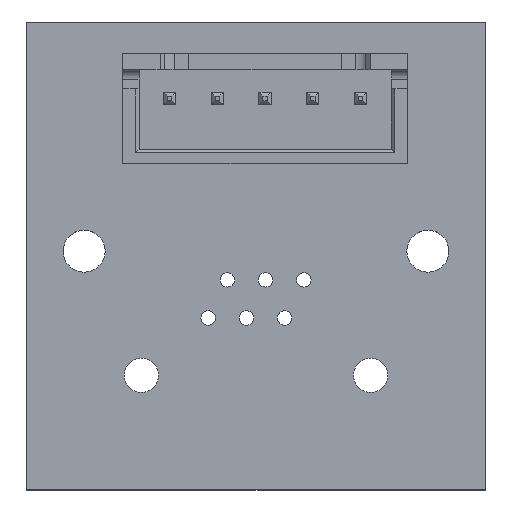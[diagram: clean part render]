
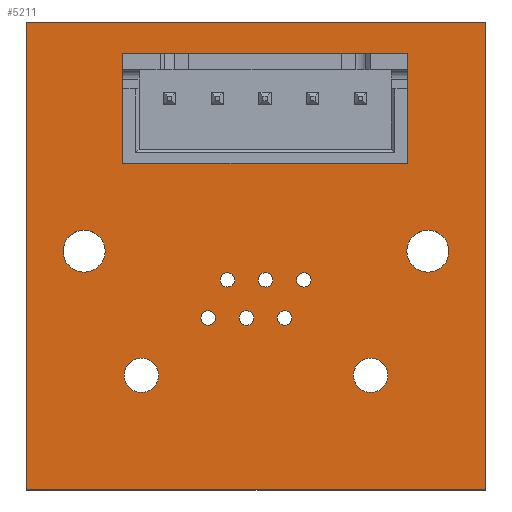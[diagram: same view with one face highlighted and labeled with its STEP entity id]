
A CAD part, top view. The second image highlights one B-rep face of the part: STEP entity #5211.
In plain terms, the highlighted planar face has unit normal (0, 0, 1).
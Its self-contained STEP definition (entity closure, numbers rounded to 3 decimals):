
#4934 = VERTEX_POINT('',#4935);
#4935 = CARTESIAN_POINT('',(24.,0.,1.51));
#4941 = EDGE_CURVE('',#4934,#4942,#4944,.T.);
#4942 = VERTEX_POINT('',#4943);
#4943 = CARTESIAN_POINT('',(0.,0.,1.51));
#4944 = LINE('',#4945,#4946);
#4945 = CARTESIAN_POINT('',(24.,0.,1.51));
#4946 = VECTOR('',#4947,1.);
#4947 = DIRECTION('',(-1.,0.,0.));
#4974 = VERTEX_POINT('',#4975);
#4975 = CARTESIAN_POINT('',(24.,24.5,1.51));
#4981 = EDGE_CURVE('',#4974,#4934,#4982,.T.);
#4982 = LINE('',#4983,#4984);
#4983 = CARTESIAN_POINT('',(24.,24.5,1.51));
#4984 = VECTOR('',#4985,1.);
#4985 = DIRECTION('',(0.,-1.,0.));
#5003 = EDGE_CURVE('',#4942,#5004,#5006,.T.);
#5004 = VERTEX_POINT('',#5005);
#5005 = CARTESIAN_POINT('',(0.,24.5,1.51));
#5006 = LINE('',#5007,#5008);
#5007 = CARTESIAN_POINT('',(0.,0.,1.51));
#5008 = VECTOR('',#5009,1.);
#5009 = DIRECTION('',(0.,1.,0.));
#5211 = ADVANCED_FACE('',(#5212,#5223,#5234,#5245,#5256,#5267,#5278,
    #5289,#5300,#5311,#5322,#5333,#5344,#5355,#5366,#5377),#5388,.T.);
#5212 = FACE_BOUND('',#5213,.T.);
#5213 = EDGE_LOOP('',(#5214,#5215,#5216,#5222));
#5214 = ORIENTED_EDGE('',*,*,#4941,.F.);
#5215 = ORIENTED_EDGE('',*,*,#4981,.F.);
#5216 = ORIENTED_EDGE('',*,*,#5217,.F.);
#5217 = EDGE_CURVE('',#5004,#4974,#5218,.T.);
#5218 = LINE('',#5219,#5220);
#5219 = CARTESIAN_POINT('',(0.,24.5,1.51));
#5220 = VECTOR('',#5221,1.);
#5221 = DIRECTION('',(1.,0.,0.));
#5222 = ORIENTED_EDGE('',*,*,#5003,.F.);
#5223 = FACE_BOUND('',#5224,.T.);
#5224 = EDGE_LOOP('',(#5225));
#5225 = ORIENTED_EDGE('',*,*,#5226,.T.);
#5226 = EDGE_CURVE('',#5227,#5227,#5229,.T.);
#5227 = VERTEX_POINT('',#5228);
#5228 = CARTESIAN_POINT('',(6.,5.1,1.51));
#5229 = CIRCLE('',#5230,0.9);
#5230 = AXIS2_PLACEMENT_3D('',#5231,#5232,#5233);
#5231 = CARTESIAN_POINT('',(6.,6.,1.51));
#5232 = DIRECTION('',(-0.,0.,-1.));
#5233 = DIRECTION('',(-0.,-1.,0.));
#5234 = FACE_BOUND('',#5235,.T.);
#5235 = EDGE_LOOP('',(#5236));
#5236 = ORIENTED_EDGE('',*,*,#5237,.T.);
#5237 = EDGE_CURVE('',#5238,#5238,#5240,.T.);
#5238 = VERTEX_POINT('',#5239);
#5239 = CARTESIAN_POINT('',(9.5,8.62,1.51));
#5240 = CIRCLE('',#5241,0.38);
#5241 = AXIS2_PLACEMENT_3D('',#5242,#5243,#5244);
#5242 = CARTESIAN_POINT('',(9.5,9.,1.51));
#5243 = DIRECTION('',(-0.,0.,-1.));
#5244 = DIRECTION('',(-0.,-1.,0.));
#5245 = FACE_BOUND('',#5246,.T.);
#5246 = EDGE_LOOP('',(#5247));
#5247 = ORIENTED_EDGE('',*,*,#5248,.T.);
#5248 = EDGE_CURVE('',#5249,#5249,#5251,.T.);
#5249 = VERTEX_POINT('',#5250);
#5250 = CARTESIAN_POINT('',(11.5,8.62,1.51));
#5251 = CIRCLE('',#5252,0.38);
#5252 = AXIS2_PLACEMENT_3D('',#5253,#5254,#5255);
#5253 = CARTESIAN_POINT('',(11.5,9.,1.51));
#5254 = DIRECTION('',(-0.,0.,-1.));
#5255 = DIRECTION('',(-0.,-1.,0.));
#5256 = FACE_BOUND('',#5257,.T.);
#5257 = EDGE_LOOP('',(#5258));
#5258 = ORIENTED_EDGE('',*,*,#5259,.T.);
#5259 = EDGE_CURVE('',#5260,#5260,#5262,.T.);
#5260 = VERTEX_POINT('',#5261);
#5261 = CARTESIAN_POINT('',(3.,11.4,1.51));
#5262 = CIRCLE('',#5263,1.1);
#5263 = AXIS2_PLACEMENT_3D('',#5264,#5265,#5266);
#5264 = CARTESIAN_POINT('',(3.,12.5,1.51));
#5265 = DIRECTION('',(-0.,0.,-1.));
#5266 = DIRECTION('',(-0.,-1.,0.));
#5267 = FACE_BOUND('',#5268,.T.);
#5268 = EDGE_LOOP('',(#5269));
#5269 = ORIENTED_EDGE('',*,*,#5270,.T.);
#5270 = EDGE_CURVE('',#5271,#5271,#5273,.T.);
#5271 = VERTEX_POINT('',#5272);
#5272 = CARTESIAN_POINT('',(10.5,10.62,1.51));
#5273 = CIRCLE('',#5274,0.38);
#5274 = AXIS2_PLACEMENT_3D('',#5275,#5276,#5277);
#5275 = CARTESIAN_POINT('',(10.5,11.,1.51));
#5276 = DIRECTION('',(-0.,0.,-1.));
#5277 = DIRECTION('',(-0.,-1.,0.));
#5278 = FACE_BOUND('',#5279,.T.);
#5279 = EDGE_LOOP('',(#5280));
#5280 = ORIENTED_EDGE('',*,*,#5281,.T.);
#5281 = EDGE_CURVE('',#5282,#5282,#5284,.T.);
#5282 = VERTEX_POINT('',#5283);
#5283 = CARTESIAN_POINT('',(13.5,8.62,1.51));
#5284 = CIRCLE('',#5285,0.38);
#5285 = AXIS2_PLACEMENT_3D('',#5286,#5287,#5288);
#5286 = CARTESIAN_POINT('',(13.5,9.,1.51));
#5287 = DIRECTION('',(-0.,0.,-1.));
#5288 = DIRECTION('',(-0.,-1.,0.));
#5289 = FACE_BOUND('',#5290,.T.);
#5290 = EDGE_LOOP('',(#5291));
#5291 = ORIENTED_EDGE('',*,*,#5292,.T.);
#5292 = EDGE_CURVE('',#5293,#5293,#5295,.T.);
#5293 = VERTEX_POINT('',#5294);
#5294 = CARTESIAN_POINT('',(18.,5.1,1.51));
#5295 = CIRCLE('',#5296,0.9);
#5296 = AXIS2_PLACEMENT_3D('',#5297,#5298,#5299);
#5297 = CARTESIAN_POINT('',(18.,6.,1.51));
#5298 = DIRECTION('',(-0.,0.,-1.));
#5299 = DIRECTION('',(-0.,-1.,0.));
#5300 = FACE_BOUND('',#5301,.T.);
#5301 = EDGE_LOOP('',(#5302));
#5302 = ORIENTED_EDGE('',*,*,#5303,.T.);
#5303 = EDGE_CURVE('',#5304,#5304,#5306,.T.);
#5304 = VERTEX_POINT('',#5305);
#5305 = CARTESIAN_POINT('',(12.5,10.62,1.51));
#5306 = CIRCLE('',#5307,0.38);
#5307 = AXIS2_PLACEMENT_3D('',#5308,#5309,#5310);
#5308 = CARTESIAN_POINT('',(12.5,11.,1.51));
#5309 = DIRECTION('',(-0.,0.,-1.));
#5310 = DIRECTION('',(-0.,-1.,0.));
#5311 = FACE_BOUND('',#5312,.T.);
#5312 = EDGE_LOOP('',(#5313));
#5313 = ORIENTED_EDGE('',*,*,#5314,.T.);
#5314 = EDGE_CURVE('',#5315,#5315,#5317,.T.);
#5315 = VERTEX_POINT('',#5316);
#5316 = CARTESIAN_POINT('',(14.5,10.62,1.51));
#5317 = CIRCLE('',#5318,0.38);
#5318 = AXIS2_PLACEMENT_3D('',#5319,#5320,#5321);
#5319 = CARTESIAN_POINT('',(14.5,11.,1.51));
#5320 = DIRECTION('',(-0.,0.,-1.));
#5321 = DIRECTION('',(-0.,-1.,0.));
#5322 = FACE_BOUND('',#5323,.T.);
#5323 = EDGE_LOOP('',(#5324));
#5324 = ORIENTED_EDGE('',*,*,#5325,.T.);
#5325 = EDGE_CURVE('',#5326,#5326,#5328,.T.);
#5326 = VERTEX_POINT('',#5327);
#5327 = CARTESIAN_POINT('',(21.,11.4,1.51));
#5328 = CIRCLE('',#5329,1.1);
#5329 = AXIS2_PLACEMENT_3D('',#5330,#5331,#5332);
#5330 = CARTESIAN_POINT('',(21.,12.5,1.51));
#5331 = DIRECTION('',(-0.,0.,-1.));
#5332 = DIRECTION('',(-0.,-1.,0.));
#5333 = FACE_BOUND('',#5334,.T.);
#5334 = EDGE_LOOP('',(#5335));
#5335 = ORIENTED_EDGE('',*,*,#5336,.T.);
#5336 = EDGE_CURVE('',#5337,#5337,#5339,.T.);
#5337 = VERTEX_POINT('',#5338);
#5338 = CARTESIAN_POINT('',(7.475,20.01,1.51));
#5339 = CIRCLE('',#5340,0.475);
#5340 = AXIS2_PLACEMENT_3D('',#5341,#5342,#5343);
#5341 = CARTESIAN_POINT('',(7.475,20.485,1.51));
#5342 = DIRECTION('',(-0.,0.,-1.));
#5343 = DIRECTION('',(-0.,-1.,0.));
#5344 = FACE_BOUND('',#5345,.T.);
#5345 = EDGE_LOOP('',(#5346));
#5346 = ORIENTED_EDGE('',*,*,#5347,.T.);
#5347 = EDGE_CURVE('',#5348,#5348,#5350,.T.);
#5348 = VERTEX_POINT('',#5349);
#5349 = CARTESIAN_POINT('',(9.975,20.01,1.51));
#5350 = CIRCLE('',#5351,0.475);
#5351 = AXIS2_PLACEMENT_3D('',#5352,#5353,#5354);
#5352 = CARTESIAN_POINT('',(9.975,20.485,1.51));
#5353 = DIRECTION('',(-0.,0.,-1.));
#5354 = DIRECTION('',(-0.,-1.,0.));
#5355 = FACE_BOUND('',#5356,.T.);
#5356 = EDGE_LOOP('',(#5357));
#5357 = ORIENTED_EDGE('',*,*,#5358,.T.);
#5358 = EDGE_CURVE('',#5359,#5359,#5361,.T.);
#5359 = VERTEX_POINT('',#5360);
#5360 = CARTESIAN_POINT('',(12.475,20.01,1.51));
#5361 = CIRCLE('',#5362,0.475);
#5362 = AXIS2_PLACEMENT_3D('',#5363,#5364,#5365);
#5363 = CARTESIAN_POINT('',(12.475,20.485,1.51));
#5364 = DIRECTION('',(-0.,0.,-1.));
#5365 = DIRECTION('',(-0.,-1.,0.));
#5366 = FACE_BOUND('',#5367,.T.);
#5367 = EDGE_LOOP('',(#5368));
#5368 = ORIENTED_EDGE('',*,*,#5369,.T.);
#5369 = EDGE_CURVE('',#5370,#5370,#5372,.T.);
#5370 = VERTEX_POINT('',#5371);
#5371 = CARTESIAN_POINT('',(14.975,20.01,1.51));
#5372 = CIRCLE('',#5373,0.475);
#5373 = AXIS2_PLACEMENT_3D('',#5374,#5375,#5376);
#5374 = CARTESIAN_POINT('',(14.975,20.485,1.51));
#5375 = DIRECTION('',(-0.,0.,-1.));
#5376 = DIRECTION('',(-0.,-1.,0.));
#5377 = FACE_BOUND('',#5378,.T.);
#5378 = EDGE_LOOP('',(#5379));
#5379 = ORIENTED_EDGE('',*,*,#5380,.T.);
#5380 = EDGE_CURVE('',#5381,#5381,#5383,.T.);
#5381 = VERTEX_POINT('',#5382);
#5382 = CARTESIAN_POINT('',(17.475,20.01,1.51));
#5383 = CIRCLE('',#5384,0.475);
#5384 = AXIS2_PLACEMENT_3D('',#5385,#5386,#5387);
#5385 = CARTESIAN_POINT('',(17.475,20.485,1.51));
#5386 = DIRECTION('',(-0.,0.,-1.));
#5387 = DIRECTION('',(-0.,-1.,0.));
#5388 = PLANE('',#5389);
#5389 = AXIS2_PLACEMENT_3D('',#5390,#5391,#5392);
#5390 = CARTESIAN_POINT('',(0.,0.,1.51));
#5391 = DIRECTION('',(0.,0.,1.));
#5392 = DIRECTION('',(1.,0.,-0.));
